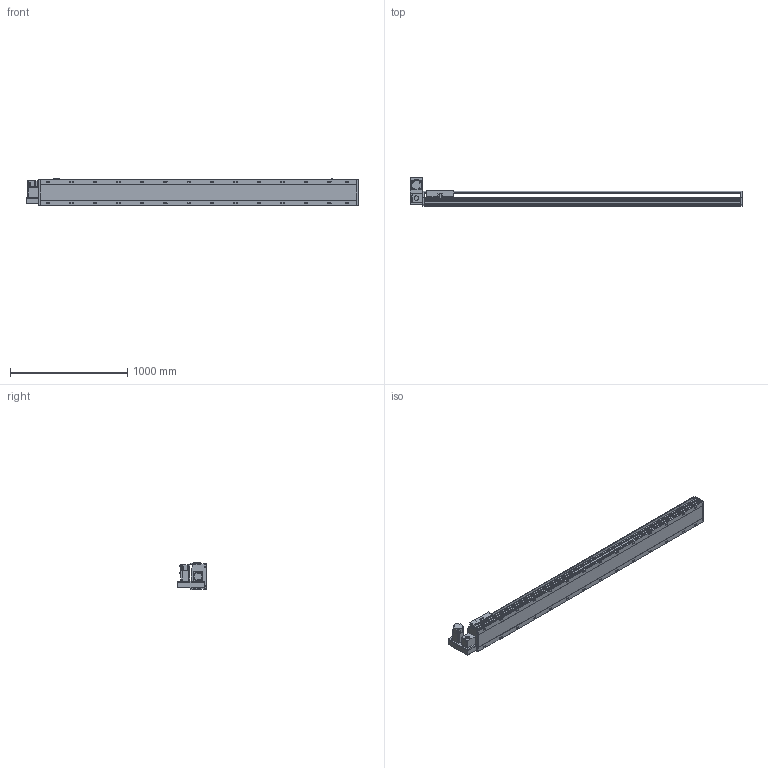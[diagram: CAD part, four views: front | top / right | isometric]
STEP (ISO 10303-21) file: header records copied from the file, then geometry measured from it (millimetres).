
FILE_DESCRIPTION(/* description */ ('STEP AP214'),/* implementation_level */ '2;1');
FILE_NAME(/* name */ 'PBS220-P40-S2350-LU-T75-C1-N(0)',/* time_stamp */ '2022-06-13T02:31:46+02:00',/* author */ ('License CC BY-ND 4.0'),/* organization */ ('CADENAS'),/* preprocessor_version */ 'ST-DEVELOPER v18.102',/* originating_system */ 'PARTsolutions',/* authorisation */ ' ');
FILE_SCHEMA (('AUTOMOTIVE_DESIGN {1 0 10303 214 3 1 1}'));
Length unit declared in the file: millimetre
Products named in the file (7): PBS220-P40-S2350-LU-T75-C1-N(0); PBS220_sensor; PBS220_plant; PBS220_sliser; T75-p1; PBS220T-LU_motors; PBS220-S2350()_body
Assembly tree (8 placements, depth 2):
  PBS220-P40-S2350-LU-T75-C1-N(0)
    PBS220_sensor  x3
    PBS220_plant
    PBS220_sliser
    T75-p1
    PBS220T-LU_motors
    PBS220-S2350()_body
Bounding box: 2834 x 247 x 238.5 mm (x, y, z)
Volume: 39639273.3 mm3; surface area: 3647209.2 mm2
Topology: 8 solids, 8 shells, 986 faces, 2564 edges, 1666 vertices
Faces by surface type: plane 622, cylinder 312, cone 52
Full cylindrical faces by diameter (mm): 2.013 x4, 4.5 x14, 4.917 x4, 6 x7, 6.647 x8, 8 x10, 8.376 x28, 8.5 x28, 10 x6, 14 x28, 38 x2, 40 x1, 70 x1
Entity records: 27501 total; most frequent: CARTESIAN_POINT 4888, DIRECTION 4779, ORIENTED_EDGE 4322, EDGE_CURVE 2161, AXIS2_PLACEMENT_3D 1711, VERTEX_POINT 1512, LINE 1357, VECTOR 1357
